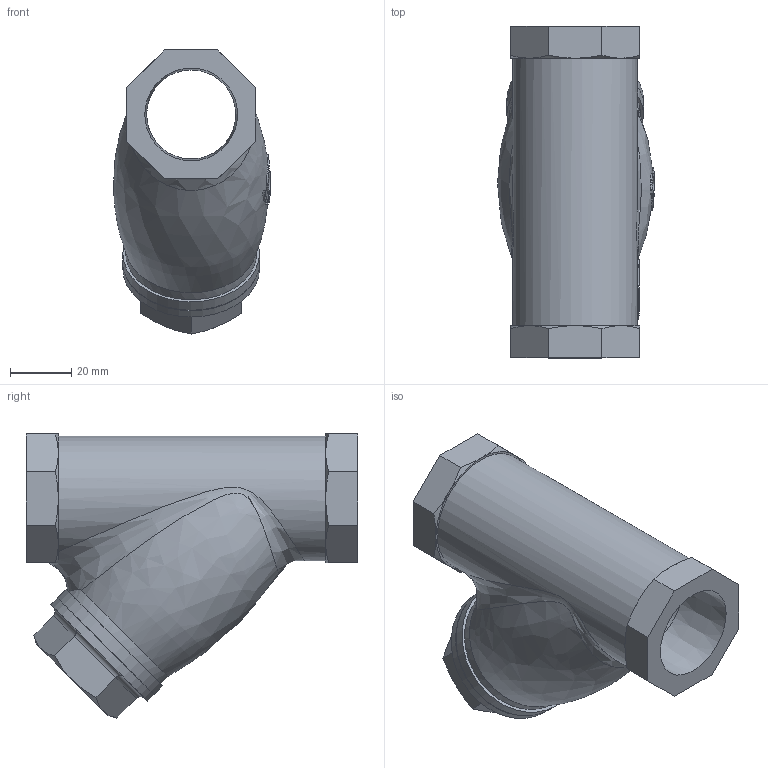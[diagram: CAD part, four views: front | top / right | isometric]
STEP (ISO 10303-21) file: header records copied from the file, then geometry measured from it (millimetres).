
FILE_DESCRIPTION(/* description */ ('ベン'),/* implementation_level */ '2;1');
FILE_NAME(/* name */ 'C:\Users\Fujimoto-s\OneDrive\Inventor\WorkSpace\\X2\305D306E4ED6\X0\\ホームページ用\\X2\30C030A630F330ED30FC30C97D206750\X0\\ねじ込み継手\KY7-D×25A-#80\KY7-D×25A-#80.stp',/* time_stamp */ '2024-08-08T09:57:09+09:00',/* author */ ('Fujimoto-s'),/* organization */ (''),/* preprocessor_version */ 'ST-DEVELOPER v15.2',/* originating_system */ 'Autodesk Inventor 2014',/* authorisation */ '');
FILE_SCHEMA (('AUTOMOTIVE_DESIGN { 1 0 10303 214 3 1 1 }'));
Length unit declared in the file: millimetre
Products named in the file (1): #4789
Bounding box: 51.07 x 108 x 92.47 mm (x, y, z)
Volume: 169700.7 mm3; surface area: 33650 mm2
Topology: 1 solids, 1 shells, 138 faces, 341 edges, 216 vertices
Faces by surface type: plane 72, cylinder 31, cone 24, bspline 11
Full cylindrical faces by diameter (mm): 29 x1, 40.6 x1, 44.3 x1, 44.5 x2
Entity records: 4734 total; most frequent: CARTESIAN_POINT 1856, ORIENTED_EDGE 650, DIRECTION 501, EDGE_CURVE 323, VERTEX_POINT 208, AXIS2_PLACEMENT_3D 191, EDGE_LOOP 157, ADVANCED_FACE 136
